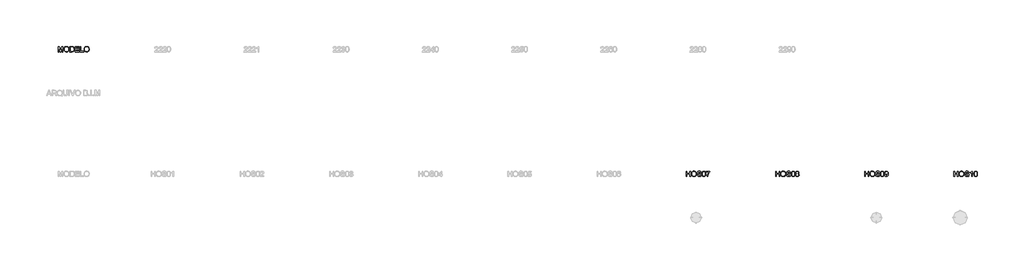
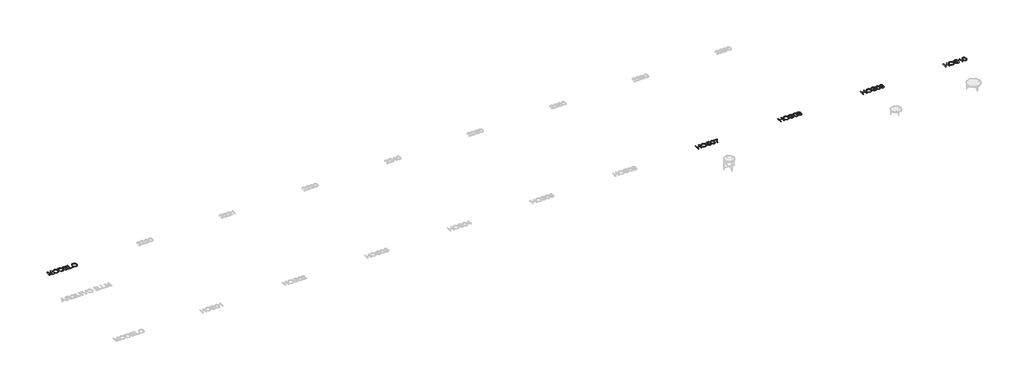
# One storey, part 3 of 6: 5 proxies.
"""IFC4 building model written with IfcOpenShell, lengths in millimetres."""

from ifc_helpers import new_model, si_unit, origin, origin_with_axes, place, context, project, spatial, polyline, outline, extrude, element, save

model = new_model("IFC4")

# Units and contexts
model_context = context("Model", 3, world=origin())
ifc_project = project(units=[si_unit("LENGTHUNIT", "METRE", prefix="MILLI")], contexts=[model_context])

# Site, building, storey
site = spatial("IfcSite", under=ifc_project)
building = spatial("IfcBuilding", under=site)
storey = spatial("IfcBuildingStorey", under=building, Name="Marelli - Linha HOSPITALITY - Planta Baixa", Elevation=0.0)

# Proxies
placement = place(None, origin())
element("IfcBuildingElementProxy", 1, Name="300mm Arial", ObjectType="300mm Arial", at=placement, inside=storey, context=model_context, shape_type="SweptSolid", body=[
    extrude(outline(polyline([(-9966.8769052, 2219.4336799), (-9966.8769052, 2520.8026104), (-9902.0560977, 2520.8026104), (-9840.3990753, 2308.3875464), (-9827.9646638, 2264.0209777), (-9814.5001828, 2312.0663663), (-9753.87323, 2520.8026104), (-9689.0524225, 2520.8026104), (-9689.0524225, 2219.4336799), (-9726.7235388, 2219.4336799), (-9726.7235388, 2483.1314941), (-9802.4336534, 2219.4336799), (-9853.4956743, 2219.4336799), (-9929.2057889, 2483.1314941), (-9929.2057889, 2219.4336799), (-9966.8769052, 2219.4336799)])), origin_with_axes(), (0.0, 0.0, 1.0), 10.0),
    extrude(outline(polyline([(-9637.2546375, 2366.1450196), (-9634.7438429, 2401.4938808), (-9627.2114591, 2432.786843), (-9614.657486, 2460.0239063), (-9597.0819237, 2483.2050705), (-9575.5378343, 2501.7141334), (-9551.0782802, 2514.9348926), (-9523.7032612, 2522.8673481), (-9493.4127774, 2525.5114999), (-9453.883857, 2520.545093), (-9418.4384268, 2505.6458722), (-9389.0078672, 2481.8623012), (-9367.5235587, 2450.2428437), (-9354.3901714, 2412.31421), (-9350.0123757, 2369.6031104), (-9354.6200977, 2326.3217936), (-9368.4432637, 2287.859731), (-9390.7185185, 2256.1850913), (-9420.682507, 2233.266043), (-9455.8244346, 2219.3601035), (-9493.6335066, 2214.7247904), (-9533.7694323, 2219.8475472), (-9569.4171976, 2235.2158175), (-9598.7741808, 2259.4408469), (-9620.0377602, 2291.1338808), (-9632.9504182, 2327.6001836), (-9637.2546375, 2366.1450196)]), holes=[polyline([(-9599.5835212, 2365.7771376), (-9597.7004253, 2340.8025487), (-9592.0511374, 2318.6330599), (-9582.6356576, 2299.2686714), (-9569.4539858, 2282.7093831), (-9553.4304257, 2269.4472372), (-9535.4892806, 2259.9742758), (-9515.6305507, 2254.290499), (-9493.8542358, 2252.3959067), (-9471.7054404, 2254.3088931), (-9451.6121857, 2260.0478522), (-9433.5744716, 2269.6127841), (-9417.5922982, 2283.0036887), (-9404.5071955, 2299.9124649), (-9395.1606936, 2320.0310115), (-9389.5527924, 2343.3593285), (-9387.683492, 2369.897416), (-9390.8840654, 2403.2459188), (-9400.4857854, 2432.0694731), (-9416.2403319, 2455.641512), (-9437.8993843, 2473.2354684), (-9464.0282031, 2484.1891548), (-9493.1920482, 2487.8403836), (-9514.2119057, 2486.0814478), (-9533.71425, 2480.8046405), (-9551.699081, 2472.0099615), (-9568.1663988, 2459.697411), (-9581.9113899, 2443.2737792), (-9591.7292406, 2422.1458563), (-9597.6199511, 2396.3136425), (-9599.5835212, 2365.7771376)])]), origin_with_axes(), (0.0, 0.0, 1.0), 10.0),
    extrude(outline(polyline([(-9298.2145908, 2219.4336799), (-9298.2145908, 2520.8026104), (-9194.2511389, 2520.8026104), (-9140.4667912, 2516.4616028), (-9116.444097, 2508.0922874), (-9096.173799, 2494.9037179), (-9075.333284, 2471.9478814), (-9060.4892455, 2443.4002386), (-9051.6048953, 2409.8126124), (-9048.6434453, 2371.7368259), (-9050.6484021, 2339.3908015), (-9056.6632727, 2310.9259321), (-9065.8235344, 2286.6917057), (-9077.2646645, 2267.0376101), (-9090.4348399, 2251.522187), (-9104.7822377, 2239.7039779), (-9121.254154, 2230.9391893), (-9140.797885, 2224.5840279), (-9189.2479438, 2219.4336799), (-9298.2145908, 2219.4336799)]), holes=[polyline([(-9260.5434745, 2257.1047962), (-9193.8832569, 2257.1047962), (-9166.3105014, 2258.4659596), (-9145.39641, 2262.5494498), (-9129.6142724, 2269.1161434), (-9117.4373783, 2277.9269172), (-9104.3499764, 2294.2332866), (-9094.51833, 2315.3405161), (-9088.3655037, 2341.3405761), (-9086.3145616, 2372.3254371), (-9090.3336724, 2413.3810678), (-9102.3910047, 2443.6945442), (-9120.2056904, 2464.5166651), (-9141.4968608, 2477.0982294), (-9163.1651103, 2481.6231779), (-9194.9133265, 2483.1314941), (-9260.5434745, 2483.1314941), (-9260.5434745, 2257.1047962)])]), origin_with_axes(), (0.0, 0.0, 1.0), 10.0),
    extrude(outline(polyline([(-8996.8456603, 2219.4336799), (-8996.8456603, 2520.8026104), (-8780.2367416, 2520.8026104), (-8780.2367416, 2483.1314941), (-8959.174544, 2483.1314941), (-8959.174544, 2393.6625928), (-8789.6545206, 2393.6625928), (-8789.6545206, 2355.9914765), (-8959.174544, 2355.9914765), (-8959.174544, 2257.1047962), (-8775.527852, 2257.1047962), (-8775.527852, 2219.4336799), (-8996.8456603, 2219.4336799)])), origin_with_axes(), (0.0, 0.0, 1.0), 10.0),
    extrude(outline(polyline([(-8719.0211776, 2219.4336799), (-8719.0211776, 2520.8026104), (-8681.3500613, 2520.8026104), (-8681.3500613, 2257.1047962), (-8530.665596, 2257.1047962), (-8530.665596, 2219.4336799), (-8719.0211776, 2219.4336799)])), origin_with_axes(), (0.0, 0.0, 1.0), 10.0),
    extrude(outline(polyline([(-8502.4122588, 2366.1450196), (-8499.9014642, 2401.4938808), (-8492.3690803, 2432.786843), (-8479.8151073, 2460.0239063), (-8462.2395449, 2483.2050705), (-8440.6954556, 2501.7141334), (-8416.2359014, 2514.9348926), (-8388.8608825, 2522.8673481), (-8358.5703987, 2525.5114999), (-8319.0414783, 2520.545093), (-8283.5960481, 2505.6458722), (-8254.1654885, 2481.8623012), (-8232.6811799, 2450.2428437), (-8219.5477927, 2412.31421), (-8215.169997, 2369.6031104), (-8219.777719, 2326.3217936), (-8233.6008849, 2287.859731), (-8255.8761397, 2256.1850913), (-8285.8401283, 2233.266043), (-8320.9820558, 2219.3601035), (-8358.7911279, 2214.7247904), (-8398.9270536, 2219.8475472), (-8434.5748189, 2235.2158175), (-8463.9318021, 2259.4408469), (-8485.1953814, 2291.1338808), (-8498.1080395, 2327.6001836), (-8502.4122588, 2366.1450196)]), holes=[polyline([(-8464.7411425, 2365.7771376), (-8462.8580465, 2340.8025487), (-8457.2087587, 2318.6330599), (-8447.7932788, 2299.2686714), (-8434.6116071, 2282.7093831), (-8418.5880469, 2269.4472372), (-8400.6469019, 2259.9742758), (-8380.7881719, 2254.290499), (-8359.0118571, 2252.3959067), (-8336.8630617, 2254.3088931), (-8316.769807, 2260.0478522), (-8298.7320929, 2269.6127841), (-8282.7499195, 2283.0036887), (-8269.6648168, 2299.9124649), (-8260.3183148, 2320.0310115), (-8254.7104137, 2343.3593285), (-8252.8411133, 2369.897416), (-8256.0416866, 2403.2459188), (-8265.6434067, 2432.0694731), (-8281.3979532, 2455.641512), (-8303.0570056, 2473.2354684), (-8329.1858243, 2484.1891548), (-8358.3496695, 2487.8403836), (-8379.369527, 2486.0814478), (-8398.8718713, 2480.8046405), (-8416.8567023, 2472.0099615), (-8433.3240201, 2459.697411), (-8447.0690112, 2443.2737792), (-8456.8868619, 2422.1458563), (-8462.7775724, 2396.3136425), (-8464.7411425, 2365.7771376)])]), origin_with_axes(), (0.0, 0.0, 1.0), 10.0),
])
element("IfcBuildingElementProxy", 2, Name="300mm Arial", ObjectType="300mm Arial", at=placement, inside=storey, context=model_context, shape_type="SweptSolid", body=[
    extrude(outline(polyline([(25252.0864583, -4780.5663201), (25252.0864583, -4479.1973896), (25289.7575746, -4479.1973896), (25289.7575746, -4601.6285176), (25449.8598189, -4601.6285176), (25449.8598189, -4479.1973896), (25487.5309352, -4479.1973896), (25487.5309352, -4780.5663201), (25449.8598189, -4780.5663201), (25449.8598189, -4639.2996339), (25289.7575746, -4639.2996339), (25289.7575746, -4780.5663201), (25252.0864583, -4780.5663201)])), origin_with_axes(), (0.0, 0.0, 1.0), 10.0),
    extrude(outline(polyline([(25539.3287202, -4633.8549804), (25541.8395148, -4598.5061192), (25549.3718986, -4567.213157), (25561.9258717, -4539.9760937), (25579.501434, -4516.7949295), (25601.0455234, -4498.2858666), (25625.5050775, -4485.0651074), (25652.8800965, -4477.1326519), (25683.1705803, -4474.4885001), (25722.6995006, -4479.454907), (25758.1449309, -4494.3541278), (25787.5754905, -4518.1376988), (25809.059799, -4549.7571563), (25822.1931862, -4587.68579), (25826.570982, -4630.3968896), (25821.96326, -4673.6782064), (25808.140094, -4712.140269), (25785.8648392, -4743.8149087), (25755.9008507, -4766.733957), (25720.7589231, -4780.6398965), (25682.9498511, -4785.2752096), (25642.8139254, -4780.1524528), (25607.1661601, -4764.7841825), (25577.8091768, -4740.5591531), (25556.5455975, -4708.8661192), (25543.6329395, -4672.3998164), (25539.3287202, -4633.8549804)]), holes=[polyline([(25576.9998365, -4634.2228624), (25578.8829324, -4659.1974513), (25584.5322203, -4681.3669401), (25593.9477001, -4700.7313286), (25607.1293719, -4717.2906169), (25623.152932, -4730.5527628), (25641.0940771, -4740.0257242), (25660.952807, -4745.709501), (25682.7291219, -4747.6040933), (25704.8779172, -4745.6911069), (25724.971172, -4739.9521478), (25743.008886, -4730.3872159), (25758.9910595, -4716.9963113), (25772.0761622, -4700.0875351), (25781.4226641, -4679.9689885), (25787.0305653, -4656.6406715), (25788.8998657, -4630.102584), (25785.6992923, -4596.7540812), (25776.0975722, -4567.9305269), (25760.3430258, -4544.358488), (25738.6839733, -4526.7645316), (25712.5551546, -4515.8108452), (25683.3913095, -4512.1596164), (25662.371452, -4513.9185522), (25642.8691077, -4519.1953595), (25624.8842767, -4527.9900385), (25608.4169588, -4540.302589), (25594.6719678, -4556.7262208), (25584.8541171, -4577.8541437), (25578.9634066, -4603.6863575), (25576.9998365, -4634.2228624)])]), origin_with_axes(), (0.0, 0.0, 1.0), 10.0),
    extrude(outline(polyline([(25864.2420983, -4676.9707502), (25901.9132146, -4676.9707502), (25906.235828, -4697.8756446), (25914.0533204, -4714.6786547), (25926.2486086, -4728.0143771), (25943.7046092, -4738.517408), (25965.041765, -4745.332422), (25988.8805183, -4747.6040933), (26009.8681861, -4745.884245), (26028.2438917, -4740.7247), (26043.1339155, -4732.5577197), (26053.6645376, -4721.8155654), (26059.9277286, -4709.4823216), (26062.0154589, -4696.5420724), (26060.4519604, -4683.932917), (26055.761465, -4673.0344129), (26046.2333213, -4663.7361954), (26030.1568781, -4655.9279001), (25975.3056726, -4641.5437141), (25939.2992224, -4632.0247675), (25916.2606124, -4622.9656733), (25897.5078277, -4610.2921386), (25884.2180906, -4594.9330653), (25876.2994307, -4577.2195472), (25873.6598774, -4557.4826782), (25876.9248301, -4535.4189555), (25886.7196882, -4514.845155), (25902.7869343, -4497.4075484), (25924.8690511, -4484.7524077), (25951.3749488, -4477.054477), (25980.713538, -4474.4885001), (26012.4985423, -4477.1740386), (26040.3104212, -4485.2306543), (26063.1558931, -4498.4928003), (26080.0416767, -4516.7949295), (26090.7286486, -4538.9966079), (26094.9776857, -4563.9574013), (26057.3065694, -4563.9574013), (26050.3903879, -4541.4798114), (26035.9694136, -4525.2562154), (26013.4366414, -4515.4337661), (25982.1850659, -4512.1596164), (25950.1977265, -4515.3969779), (25928.2535655, -4525.1090626), (25915.5616366, -4539.4012781), (25911.3309937, -4556.3790322), (25914.3292319, -4570.8551887), (25923.3239467, -4582.4986539), (25944.587526, -4592.9097143), (25984.8338163, -4603.541504), (26026.3676936, -4613.6398648), (26051.4940338, -4622.4506385), (26072.9691453, -4636.1174547), (26087.9511396, -4652.9848441), (26096.7527163, -4672.868866), (26099.6865752, -4695.5855792), (26096.3112579, -4718.8081301), (26086.185306, -4740.6511236), (26069.7225867, -4759.4498935), (26047.3369673, -4773.539774), (26020.4172023, -4782.3413507), (25990.3520462, -4785.2752096), (25953.4442851, -4782.1114244), (25923.0664293, -4772.620069), (25898.8689911, -4756.764355), (25880.5024825, -4734.5074943), (25868.7118645, -4707.3945912), (25864.2420983, -4676.9707502)])), origin_with_axes(), (0.0, 0.0, 1.0), 10.0),
    extrude(outline(polyline([(26142.066581, -4632.309876), (26144.8348931, -4584.0713494), (26153.1398291, -4545.6000897), (26166.8986157, -4516.3074859), (26186.0284795, -4495.6049266), (26210.6673761, -4483.2992739), (26240.9532614, -4479.1973896), (26264.1666152, -4481.6254108), (26284.951948, -4488.9094743), (26302.3343722, -4500.7644716), (26315.3390008, -4516.9052941), (26325.16145, -4537.1939862), (26332.9973365, -4561.4925919), (26338.1292904, -4592.3486943), (26339.8399417, -4632.309876), (26337.0992208, -4680.2724911), (26328.8770582, -4718.6517803), (26315.201045, -4747.9719753), (26296.0987724, -4768.757308), (26271.4046935, -4781.1457342), (26240.9532614, -4785.2752096), (26220.2047168, -4783.4817849), (26201.8106171, -4778.1015107), (26185.7709621, -4769.1343871), (26172.0857519, -4756.580414), (26158.9523646, -4733.8866934), (26149.5713738, -4705.6103636), (26143.9427792, -4671.7514244), (26142.066581, -4632.309876)]), holes=[polyline([(26179.7376974, -4632.2362996), (26184.1522813, -4691.492892), (26189.6705112, -4711.7608907), (26197.3960331, -4725.788691), (26217.1145081, -4742.1502427), (26240.9532614, -4747.6040933), (26264.7920146, -4742.1318486), (26284.5104896, -4725.7151146), (26292.2360115, -4711.6643216), (26297.7542414, -4691.4009215), (26302.1688253, -4632.2362996), (26297.9013942, -4574.3132795), (26292.5671053, -4554.1119594), (26285.0991008, -4539.750766), (26265.417414, -4522.589071), (26240.511803, -4516.8685059), (26216.9305671, -4521.9084893), (26197.9846443, -4537.0284393), (26190.001605, -4552.6634241), (26184.2994341, -4573.7430624), (26179.7376974, -4632.2362996)])]), origin_with_axes(), (0.0, 0.0, 1.0), 10.0),
    extrude(outline(polyline([(26372.8021684, -4521.5773955), (26372.8021684, -4483.9062792), (26570.575529, -4483.9062792), (26570.575529, -4514.3669084), (26542.3865712, -4550.0422648), (26514.4735248, -4595.4113119), (26489.8530222, -4646.3353771), (26471.5416959, -4698.6757879), (26462.5653752, -4737.8368263), (26457.5621801, -4780.5663201), (26419.8910638, -4780.5663201), (26423.9653569, -4741.7363755), (26434.863861, -4695.5855792), (26452.2922705, -4646.6664709), (26475.9562799, -4599.5315902), (26503.5842177, -4556.9216582), (26532.9044127, -4521.5773955), (26372.8021684, -4521.5773955)])), origin_with_axes(), (0.0, 0.0, 1.0), 10.0),
])
element("IfcBuildingElementProxy", 3, Name="300mm Arial", ObjectType="300mm Arial", at=placement, inside=storey, context=model_context, shape_type="SweptSolid", body=[
    extrude(outline(polyline([(30252.0864583, -4780.5663201), (30252.0864583, -4479.1973896), (30289.7575746, -4479.1973896), (30289.7575746, -4601.6285176), (30449.8598189, -4601.6285176), (30449.8598189, -4479.1973896), (30487.5309352, -4479.1973896), (30487.5309352, -4780.5663201), (30449.8598189, -4780.5663201), (30449.8598189, -4639.2996339), (30289.7575746, -4639.2996339), (30289.7575746, -4780.5663201), (30252.0864583, -4780.5663201)])), origin_with_axes(), (0.0, 0.0, 1.0), 10.0),
    extrude(outline(polyline([(30539.3287202, -4633.8549804), (30541.8395148, -4598.5061192), (30549.3718986, -4567.213157), (30561.9258717, -4539.9760937), (30579.501434, -4516.7949295), (30601.0455234, -4498.2858666), (30625.5050775, -4485.0651074), (30652.8800965, -4477.1326519), (30683.1705803, -4474.4885001), (30722.6995006, -4479.454907), (30758.1449309, -4494.3541278), (30787.5754905, -4518.1376988), (30809.059799, -4549.7571563), (30822.1931862, -4587.68579), (30826.570982, -4630.3968896), (30821.96326, -4673.6782064), (30808.140094, -4712.140269), (30785.8648392, -4743.8149087), (30755.9008507, -4766.733957), (30720.7589231, -4780.6398965), (30682.9498511, -4785.2752096), (30642.8139254, -4780.1524528), (30607.1661601, -4764.7841825), (30577.8091768, -4740.5591531), (30556.5455975, -4708.8661192), (30543.6329395, -4672.3998164), (30539.3287202, -4633.8549804)]), holes=[polyline([(30576.9998365, -4634.2228624), (30578.8829324, -4659.1974513), (30584.5322203, -4681.3669401), (30593.9477001, -4700.7313286), (30607.1293719, -4717.2906169), (30623.152932, -4730.5527628), (30641.0940771, -4740.0257242), (30660.952807, -4745.709501), (30682.7291219, -4747.6040933), (30704.8779172, -4745.6911069), (30724.971172, -4739.9521478), (30743.008886, -4730.3872159), (30758.9910595, -4716.9963113), (30772.0761622, -4700.0875351), (30781.4226641, -4679.9689885), (30787.0305653, -4656.6406715), (30788.8998657, -4630.102584), (30785.6992923, -4596.7540812), (30776.0975722, -4567.9305269), (30760.3430258, -4544.358488), (30738.6839733, -4526.7645316), (30712.5551546, -4515.8108452), (30683.3913095, -4512.1596164), (30662.371452, -4513.9185522), (30642.8691077, -4519.1953595), (30624.8842767, -4527.9900385), (30608.4169588, -4540.302589), (30594.6719678, -4556.7262208), (30584.8541171, -4577.8541437), (30578.9634066, -4603.6863575), (30576.9998365, -4634.2228624)])]), origin_with_axes(), (0.0, 0.0, 1.0), 10.0),
    extrude(outline(polyline([(30864.2420983, -4676.9707502), (30901.9132146, -4676.9707502), (30906.235828, -4697.8756446), (30914.0533204, -4714.6786547), (30926.2486086, -4728.0143771), (30943.7046092, -4738.517408), (30965.041765, -4745.332422), (30988.8805183, -4747.6040933), (31009.8681861, -4745.884245), (31028.2438917, -4740.7247), (31043.1339155, -4732.5577197), (31053.6645376, -4721.8155654), (31059.9277286, -4709.4823216), (31062.0154589, -4696.5420724), (31060.4519604, -4683.932917), (31055.761465, -4673.0344129), (31046.2333213, -4663.7361954), (31030.1568781, -4655.9279001), (30975.3056726, -4641.5437141), (30939.2992224, -4632.0247675), (30916.2606124, -4622.9656733), (30897.5078277, -4610.2921386), (30884.2180906, -4594.9330653), (30876.2994307, -4577.2195472), (30873.6598774, -4557.4826782), (30876.9248301, -4535.4189555), (30886.7196882, -4514.845155), (30902.7869343, -4497.4075484), (30924.8690511, -4484.7524077), (30951.3749488, -4477.054477), (30980.713538, -4474.4885001), (31012.4985423, -4477.1740386), (31040.3104212, -4485.2306543), (31063.1558931, -4498.4928003), (31080.0416767, -4516.7949295), (31090.7286486, -4538.9966079), (31094.9776857, -4563.9574013), (31057.3065694, -4563.9574013), (31050.3903879, -4541.4798114), (31035.9694136, -4525.2562154), (31013.4366414, -4515.4337661), (30982.1850659, -4512.1596164), (30950.1977265, -4515.3969779), (30928.2535655, -4525.1090626), (30915.5616366, -4539.4012781), (30911.3309937, -4556.3790322), (30914.3292319, -4570.8551887), (30923.3239467, -4582.4986539), (30944.587526, -4592.9097143), (30984.8338163, -4603.541504), (31026.3676936, -4613.6398648), (31051.4940338, -4622.4506385), (31072.9691453, -4636.1174547), (31087.9511396, -4652.9848441), (31096.7527163, -4672.868866), (31099.6865752, -4695.5855792), (31096.3112579, -4718.8081301), (31086.185306, -4740.6511236), (31069.7225867, -4759.4498935), (31047.3369673, -4773.539774), (31020.4172023, -4782.3413507), (30990.3520462, -4785.2752096), (30953.4442851, -4782.1114244), (30923.0664293, -4772.620069), (30898.8689911, -4756.764355), (30880.5024825, -4734.5074943), (30868.7118645, -4707.3945912), (30864.2420983, -4676.9707502)])), origin_with_axes(), (0.0, 0.0, 1.0), 10.0),
    extrude(outline(polyline([(31142.066581, -4632.309876), (31144.8348931, -4584.0713494), (31153.1398291, -4545.6000897), (31166.8986157, -4516.3074859), (31186.0284795, -4495.6049266), (31210.6673761, -4483.2992739), (31240.9532614, -4479.1973896), (31264.1666152, -4481.6254108), (31284.951948, -4488.9094743), (31302.3343722, -4500.7644716), (31315.3390008, -4516.9052941), (31325.16145, -4537.1939862), (31332.9973365, -4561.4925919), (31338.1292904, -4592.3486943), (31339.8399417, -4632.309876), (31337.0992208, -4680.2724911), (31328.8770582, -4718.6517803), (31315.201045, -4747.9719753), (31296.0987724, -4768.757308), (31271.4046935, -4781.1457342), (31240.9532614, -4785.2752096), (31220.2047168, -4783.4817849), (31201.8106171, -4778.1015107), (31185.7709621, -4769.1343871), (31172.0857519, -4756.580414), (31158.9523646, -4733.8866934), (31149.5713738, -4705.6103636), (31143.9427792, -4671.7514244), (31142.066581, -4632.309876)]), holes=[polyline([(31179.7376974, -4632.2362996), (31184.1522813, -4691.492892), (31189.6705112, -4711.7608907), (31197.3960331, -4725.788691), (31217.1145081, -4742.1502427), (31240.9532614, -4747.6040933), (31264.7920146, -4742.1318486), (31284.5104896, -4725.7151146), (31292.2360115, -4711.6643216), (31297.7542414, -4691.4009215), (31302.1688253, -4632.2362996), (31297.9013942, -4574.3132795), (31292.5671053, -4554.1119594), (31285.0991008, -4539.750766), (31265.417414, -4522.589071), (31240.511803, -4516.8685059), (31216.9305671, -4521.9084893), (31197.9846443, -4537.0284393), (31190.001605, -4552.6634241), (31184.2994341, -4573.7430624), (31179.7376974, -4632.2362996)])]), origin_with_axes(), (0.0, 0.0, 1.0), 10.0),
    extrude(outline(polyline([(31427.6901621, -4614.5779638), (31407.5210317, -4604.64515), (31393.366772, -4591.180669), (31385.0066536, -4574.4604323), (31382.2199475, -4554.7603514), (31383.7374607, -4539.3966796), (31388.2900004, -4525.3113977), (31395.8775666, -4512.5045058), (31406.5001592, -4500.9760037), (31419.647342, -4491.4478601), (31434.8086787, -4484.6420431), (31471.1738139, -4479.1973896), (31507.7596784, -4484.7708018), (31523.086562, -4491.7375671), (31536.4360799, -4501.4910385), (31547.2518105, -4513.2448683), (31554.9773324, -4526.2127086), (31559.6126456, -4540.3945595), (31561.15775, -4555.790421), (31558.407832, -4574.8559054), (31550.1580783, -4591.2910335), (31536.3165182, -4604.6727411), (31516.7911813, -4614.5779638), (31539.9769441, -4626.5249316), (31556.8535306, -4644.1188881), (31567.1450294, -4666.5137045), (31570.575529, -4692.8632524), (31568.8740748, -4711.6528253), (31563.7697121, -4728.8788997), (31555.262441, -4744.5414757), (31543.3522614, -4758.6405532), (31528.6645727, -4770.2932154), (31511.8247744, -4778.6165455), (31492.8328664, -4783.6105436), (31471.6888487, -4785.2752096), (31450.5448311, -4783.6036458), (31431.5529231, -4778.5889543), (31414.7131247, -4770.2311353), (31400.0254361, -4758.5301886), (31388.1152565, -4744.3322428), (31379.6079853, -4728.4834266), (31374.5036227, -4710.9837399), (31372.8021684, -4691.8331828), (31376.3706238, -4664.4627624), (31387.0759898, -4641.9483843), (31404.3664436, -4625.0626007), (31427.6901621, -4614.5779638)]), holes=[polyline([(31419.8910638, -4555.8639974), (31423.2295929, -4572.3083226), (31433.2451802, -4585.4417098), (31449.6435202, -4594.0501485), (31472.1303071, -4596.9196281), (31494.0928622, -4594.0685426), (31510.2428818, -4585.5152862), (31520.1756957, -4572.8233574), (31523.4866336, -4557.5562546), (31520.0653311, -4541.7097376), (31509.8014234, -4528.6039416), (31493.4306746, -4519.8023648), (31471.6888487, -4516.8685059), (31449.8090671, -4519.7379855), (31433.4659094, -4528.3464242), (31423.2847752, -4540.9647766), (31419.8910638, -4555.8639974)]), polyline([(31410.4732847, -4690.5088076), (31416.7640668, -4718.8725095), (31425.4736731, -4731.0402065), (31439.0209276, -4740.0993006), (31455.2445235, -4745.7278951), (31471.9831543, -4747.6040933), (31497.6245294, -4743.6585589), (31516.8647577, -4731.8219557), (31528.894499, -4713.8969055), (31532.9044127, -4691.68603), (31528.7657403, -4669.0980755), (31516.3497229, -4650.7775522), (31496.6680362, -4638.6374463), (31470.7323555, -4634.5907444), (31445.4496654, -4638.582264), (31426.4025751, -4650.556823), (31414.4556073, -4668.5278584), (31410.4732847, -4690.5088076)])]), origin_with_axes(), (0.0, 0.0, 1.0), 10.0),
])
element("IfcBuildingElementProxy", 4, Name="300mm Arial", ObjectType="300mm Arial", at=placement, inside=storey, context=model_context, shape_type="SweptSolid", body=[
    extrude(outline(polyline([(35252.0864583, -4780.5663201), (35252.0864583, -4479.1973896), (35289.7575746, -4479.1973896), (35289.7575746, -4601.6285176), (35449.8598189, -4601.6285176), (35449.8598189, -4479.1973896), (35487.5309352, -4479.1973896), (35487.5309352, -4780.5663201), (35449.8598189, -4780.5663201), (35449.8598189, -4639.2996339), (35289.7575746, -4639.2996339), (35289.7575746, -4780.5663201), (35252.0864583, -4780.5663201)])), origin_with_axes(), (0.0, 0.0, 1.0), 10.0),
    extrude(outline(polyline([(35539.3287202, -4633.8549804), (35541.8395148, -4598.5061192), (35549.3718986, -4567.213157), (35561.9258717, -4539.9760937), (35579.501434, -4516.7949295), (35601.0455234, -4498.2858666), (35625.5050775, -4485.0651074), (35652.8800965, -4477.1326519), (35683.1705803, -4474.4885001), (35722.6995006, -4479.454907), (35758.1449309, -4494.3541278), (35787.5754905, -4518.1376988), (35809.059799, -4549.7571563), (35822.1931862, -4587.68579), (35826.570982, -4630.3968896), (35821.96326, -4673.6782064), (35808.140094, -4712.140269), (35785.8648392, -4743.8149087), (35755.9008507, -4766.733957), (35720.7589231, -4780.6398965), (35682.9498511, -4785.2752096), (35642.8139254, -4780.1524528), (35607.1661601, -4764.7841825), (35577.8091768, -4740.5591531), (35556.5455975, -4708.8661192), (35543.6329395, -4672.3998164), (35539.3287202, -4633.8549804)]), holes=[polyline([(35576.9998365, -4634.2228624), (35578.8829324, -4659.1974513), (35584.5322203, -4681.3669401), (35593.9477001, -4700.7313286), (35607.1293719, -4717.2906169), (35623.152932, -4730.5527628), (35641.0940771, -4740.0257242), (35660.952807, -4745.709501), (35682.7291219, -4747.6040933), (35704.8779172, -4745.6911069), (35724.971172, -4739.9521478), (35743.008886, -4730.3872159), (35758.9910595, -4716.9963113), (35772.0761622, -4700.0875351), (35781.4226641, -4679.9689885), (35787.0305653, -4656.6406715), (35788.8998657, -4630.102584), (35785.6992923, -4596.7540812), (35776.0975722, -4567.9305269), (35760.3430258, -4544.358488), (35738.6839733, -4526.7645316), (35712.5551546, -4515.8108452), (35683.3913095, -4512.1596164), (35662.371452, -4513.9185522), (35642.8691077, -4519.1953595), (35624.8842767, -4527.9900385), (35608.4169588, -4540.302589), (35594.6719678, -4556.7262208), (35584.8541171, -4577.8541437), (35578.9634066, -4603.6863575), (35576.9998365, -4634.2228624)])]), origin_with_axes(), (0.0, 0.0, 1.0), 10.0),
    extrude(outline(polyline([(35864.2420983, -4676.9707502), (35901.9132146, -4676.9707502), (35906.235828, -4697.8756446), (35914.0533204, -4714.6786547), (35926.2486086, -4728.0143771), (35943.7046092, -4738.517408), (35965.041765, -4745.332422), (35988.8805183, -4747.6040933), (36009.8681861, -4745.884245), (36028.2438917, -4740.7247), (36043.1339155, -4732.5577197), (36053.6645376, -4721.8155654), (36059.9277286, -4709.4823216), (36062.0154589, -4696.5420724), (36060.4519604, -4683.932917), (36055.761465, -4673.0344129), (36046.2333213, -4663.7361954), (36030.1568781, -4655.9279001), (35975.3056726, -4641.5437141), (35939.2992224, -4632.0247675), (35916.2606124, -4622.9656733), (35897.5078277, -4610.2921386), (35884.2180906, -4594.9330653), (35876.2994307, -4577.2195472), (35873.6598774, -4557.4826782), (35876.9248301, -4535.4189555), (35886.7196882, -4514.845155), (35902.7869343, -4497.4075484), (35924.8690511, -4484.7524077), (35951.3749488, -4477.054477), (35980.713538, -4474.4885001), (36012.4985423, -4477.1740386), (36040.3104212, -4485.2306543), (36063.1558931, -4498.4928003), (36080.0416767, -4516.7949295), (36090.7286486, -4538.9966079), (36094.9776857, -4563.9574013), (36057.3065694, -4563.9574013), (36050.3903879, -4541.4798114), (36035.9694136, -4525.2562154), (36013.4366414, -4515.4337661), (35982.1850659, -4512.1596164), (35950.1977265, -4515.3969779), (35928.2535655, -4525.1090626), (35915.5616366, -4539.4012781), (35911.3309937, -4556.3790322), (35914.3292319, -4570.8551887), (35923.3239467, -4582.4986539), (35944.587526, -4592.9097143), (35984.8338163, -4603.541504), (36026.3676936, -4613.6398648), (36051.4940338, -4622.4506385), (36072.9691453, -4636.1174547), (36087.9511396, -4652.9848441), (36096.7527163, -4672.868866), (36099.6865752, -4695.5855792), (36096.3112579, -4718.8081301), (36086.185306, -4740.6511236), (36069.7225867, -4759.4498935), (36047.3369673, -4773.539774), (36020.4172023, -4782.3413507), (35990.3520462, -4785.2752096), (35953.4442851, -4782.1114244), (35923.0664293, -4772.620069), (35898.8689911, -4756.764355), (35880.5024825, -4734.5074943), (35868.7118645, -4707.3945912), (35864.2420983, -4676.9707502)])), origin_with_axes(), (0.0, 0.0, 1.0), 10.0),
    extrude(outline(polyline([(36142.066581, -4632.309876), (36144.8348931, -4584.0713494), (36153.1398291, -4545.6000897), (36166.8986157, -4516.3074859), (36186.0284795, -4495.6049266), (36210.6673761, -4483.2992739), (36240.9532614, -4479.1973896), (36264.1666152, -4481.6254108), (36284.951948, -4488.9094743), (36302.3343722, -4500.7644716), (36315.3390008, -4516.9052941), (36325.16145, -4537.1939862), (36332.9973365, -4561.4925919), (36338.1292904, -4592.3486943), (36339.8399417, -4632.309876), (36337.0992208, -4680.2724911), (36328.8770582, -4718.6517803), (36315.201045, -4747.9719753), (36296.0987724, -4768.757308), (36271.4046935, -4781.1457342), (36240.9532614, -4785.2752096), (36220.2047168, -4783.4817849), (36201.8106171, -4778.1015107), (36185.7709621, -4769.1343871), (36172.0857519, -4756.580414), (36158.9523646, -4733.8866934), (36149.5713738, -4705.6103636), (36143.9427792, -4671.7514244), (36142.066581, -4632.309876)]), holes=[polyline([(36179.7376974, -4632.2362996), (36184.1522813, -4691.492892), (36189.6705112, -4711.7608907), (36197.3960331, -4725.788691), (36217.1145081, -4742.1502427), (36240.9532614, -4747.6040933), (36264.7920146, -4742.1318486), (36284.5104896, -4725.7151146), (36292.2360115, -4711.6643216), (36297.7542414, -4691.4009215), (36302.1688253, -4632.2362996), (36297.9013942, -4574.3132795), (36292.5671053, -4554.1119594), (36285.0991008, -4539.750766), (36265.417414, -4522.589071), (36240.511803, -4516.8685059), (36216.9305671, -4521.9084893), (36197.9846443, -4537.0284393), (36190.001605, -4552.6634241), (36184.2994341, -4573.7430624), (36179.7376974, -4632.2362996)])]), origin_with_axes(), (0.0, 0.0, 1.0), 10.0),
    extrude(outline(polyline([(36377.511058, -4705.2240875), (36415.1821743, -4700.5151979), (36421.6201092, -4721.8983389), (36432.104746, -4736.4572688), (36446.3785675, -4744.8173872), (36464.184056, -4747.6040933), (36480.1593317, -4745.8106686), (36494.6814734, -4740.4303944), (36506.7480029, -4732.051882), (36515.3564416, -4721.2637424), (36527.6804884, -4688.5222449), (36533.1251419, -4644.8178638), (36532.9044127, -4637.4602239), (36519.8537989, -4653.3895143), (36502.7748773, -4666.0078668), (36482.9000525, -4674.2300294), (36461.4617293, -4676.9707502), (36443.5665695, -4675.2968871), (36427.110748, -4670.2752979), (36412.0942648, -4661.9059825), (36398.5171199, -4650.188941), (36387.2668286, -4635.7357771), (36379.2309063, -4619.1580947), (36374.4093529, -4600.4558938), (36372.8021684, -4579.6291743), (36374.4875278, -4558.1080776), (36379.543606, -4538.7942728), (36387.9704029, -4521.6877601), (36399.7679187, -4506.7885393), (36414.1038202, -4494.7174113), (36430.1457744, -4486.095177), (36447.8937814, -4480.9218365), (36467.3478412, -4479.1973896), (36495.4448286, -4483.133727), (36521.0218243, -4494.942739), (36542.4141623, -4514.0358146), (36557.9571766, -4539.8243424), (36567.4209409, -4575.4721078), (36570.575529, -4624.1428957), (36567.430138, -4675.7475426), (36557.9939648, -4715.6351479), (36542.349783, -4745.6083335), (36520.5803659, -4767.469721), (36493.6238127, -4780.8238375), (36462.4182224, -4785.2752096), (36430.2101538, -4780.0236941), (36404.5135964, -4764.2691477), (36386.5425609, -4739.0048517), (36377.511058, -4705.2240875)]), holes=[polyline([(36532.9044127, -4578.7462575), (36528.8393167, -4553.215247), (36516.6440285, -4533.5703485), (36497.7164999, -4521.0439666), (36473.4546823, -4516.8685059), (36448.2915538, -4521.3658633), (36428.1316205, -4534.8579355), (36414.8878687, -4555.5053125), (36410.4732847, -4581.4685843), (36414.6487454, -4604.7463175), (36427.1751273, -4623.2231907), (36446.83842, -4635.2805231), (36472.4246127, -4639.2996339), (36496.4932923, -4635.2805231), (36515.8714763, -4623.2231907), (36528.6461786, -4604.0657358), (36532.9044127, -4578.7462575)])]), origin_with_axes(), (0.0, 0.0, 1.0), 10.0),
])
element("IfcBuildingElementProxy", 5, Name="300mm Arial", ObjectType="300mm Arial", at=placement, inside=storey, context=model_context, shape_type="SweptSolid", body=[
    extrude(outline(polyline([(40252.0864583, -4780.5663201), (40252.0864583, -4479.1973896), (40289.7575746, -4479.1973896), (40289.7575746, -4601.6285176), (40449.8598189, -4601.6285176), (40449.8598189, -4479.1973896), (40487.5309352, -4479.1973896), (40487.5309352, -4780.5663201), (40449.8598189, -4780.5663201), (40449.8598189, -4639.2996339), (40289.7575746, -4639.2996339), (40289.7575746, -4780.5663201), (40252.0864583, -4780.5663201)])), origin_with_axes(), (0.0, 0.0, 1.0), 10.0),
    extrude(outline(polyline([(40539.3287202, -4633.8549804), (40541.8395148, -4598.5061192), (40549.3718986, -4567.213157), (40561.9258717, -4539.9760937), (40579.501434, -4516.7949295), (40601.0455234, -4498.2858666), (40625.5050775, -4485.0651074), (40652.8800965, -4477.1326519), (40683.1705803, -4474.4885001), (40722.6995006, -4479.454907), (40758.1449309, -4494.3541278), (40787.5754905, -4518.1376988), (40809.059799, -4549.7571563), (40822.1931862, -4587.68579), (40826.570982, -4630.3968896), (40821.96326, -4673.6782064), (40808.140094, -4712.140269), (40785.8648392, -4743.8149088), (40755.9008507, -4766.733957), (40720.7589231, -4780.6398965), (40682.9498511, -4785.2752096), (40642.8139254, -4780.1524528), (40607.1661601, -4764.7841825), (40577.8091768, -4740.5591531), (40556.5455975, -4708.8661192), (40543.6329395, -4672.3998164), (40539.3287202, -4633.8549804)]), holes=[polyline([(40576.9998365, -4634.2228624), (40578.8829324, -4659.1974513), (40584.5322203, -4681.3669401), (40593.9477001, -4700.7313286), (40607.1293719, -4717.2906169), (40623.152932, -4730.5527628), (40641.0940771, -4740.0257242), (40660.952807, -4745.709501), (40682.7291219, -4747.6040933), (40704.8779172, -4745.6911069), (40724.971172, -4739.9521478), (40743.008886, -4730.3872159), (40758.9910595, -4716.9963113), (40772.0761622, -4700.0875351), (40781.4226641, -4679.9689885), (40787.0305653, -4656.6406715), (40788.8998657, -4630.102584), (40785.6992923, -4596.7540812), (40776.0975722, -4567.9305269), (40760.3430258, -4544.358488), (40738.6839733, -4526.7645316), (40712.5551546, -4515.8108452), (40683.3913095, -4512.1596164), (40662.371452, -4513.9185522), (40642.8691077, -4519.1953595), (40624.8842767, -4527.9900385), (40608.4169588, -4540.302589), (40594.6719678, -4556.7262208), (40584.8541171, -4577.8541437), (40578.9634066, -4603.6863575), (40576.9998365, -4634.2228624)])]), origin_with_axes(), (0.0, 0.0, 1.0), 10.0),
    extrude(outline(polyline([(40864.2420983, -4676.9707502), (40901.9132146, -4676.9707502), (40906.235828, -4697.8756446), (40914.0533204, -4714.6786547), (40926.2486086, -4728.0143771), (40943.7046092, -4738.517408), (40965.041765, -4745.332422), (40988.8805183, -4747.6040933), (41009.8681861, -4745.884245), (41028.2438917, -4740.7247), (41043.1339155, -4732.5577197), (41053.6645376, -4721.8155654), (41059.9277286, -4709.4823216), (41062.0154589, -4696.5420724), (41060.4519604, -4683.932917), (41055.761465, -4673.0344129), (41046.2333213, -4663.7361954), (41030.1568781, -4655.9279001), (40975.3056726, -4641.5437141), (40939.2992224, -4632.0247675), (40916.2606124, -4622.9656733), (40897.5078277, -4610.2921386), (40884.2180906, -4594.9330653), (40876.2994307, -4577.2195472), (40873.6598774, -4557.4826782), (40876.9248301, -4535.4189555), (40886.7196882, -4514.845155), (40902.7869343, -4497.4075484), (40924.8690511, -4484.7524077), (40951.3749488, -4477.054477), (40980.713538, -4474.4885001), (41012.4985423, -4477.1740386), (41040.3104212, -4485.2306543), (41063.1558931, -4498.4928003), (41080.0416767, -4516.7949295), (41090.7286486, -4538.9966079), (41094.9776857, -4563.9574013), (41057.3065694, -4563.9574013), (41050.3903879, -4541.4798114), (41035.9694136, -4525.2562154), (41013.4366414, -4515.4337661), (40982.1850659, -4512.1596164), (40950.1977265, -4515.3969779), (40928.2535655, -4525.1090626), (40915.5616366, -4539.4012781), (40911.3309937, -4556.3790322), (40914.3292319, -4570.8551887), (40923.3239467, -4582.4986539), (40944.587526, -4592.9097143), (40984.8338163, -4603.541504), (41026.3676936, -4613.6398648), (41051.4940338, -4622.4506385), (41072.9691453, -4636.1174547), (41087.9511396, -4652.9848441), (41096.7527163, -4672.868866), (41099.6865752, -4695.5855792), (41096.3112579, -4718.8081301), (41086.185306, -4740.6511236), (41069.7225867, -4759.4498935), (41047.3369673, -4773.539774), (41020.4172023, -4782.3413507), (40990.3520462, -4785.2752096), (40953.4442851, -4782.1114244), (40923.0664293, -4772.620069), (40898.8689911, -4756.764355), (40880.5024825, -4734.5074943), (40868.7118645, -4707.3945912), (40864.2420983, -4676.9707502)])), origin_with_axes(), (0.0, 0.0, 1.0), 10.0),
    extrude(outline(polyline([(41283.3332672, -4780.5663201), (41245.6621509, -4780.5663201), (41245.6621509, -4545.7104543), (41209.9775974, -4571.1311002), (41170.3199183, -4590.1505994), (41170.3199183, -4554.5396222), (41199.9068277, -4538.4447849), (41225.5390058, -4519.2965271), (41245.7449243, -4498.9342587), (41259.0530555, -4479.1973896), (41283.3332672, -4479.1973896), (41283.3332672, -4780.5663201)])), origin_with_axes(), (0.0, 0.0, 1.0), 10.0),
    extrude(outline(polyline([(41372.8021684, -4632.309876), (41375.5704804, -4584.0713494), (41383.8754165, -4545.6000897), (41397.6342031, -4516.3074859), (41416.7640668, -4495.6049266), (41441.4029635, -4483.2992739), (41471.6888487, -4479.1973896), (41494.9022026, -4481.6254108), (41515.6875354, -4488.9094743), (41533.0699596, -4500.7644716), (41546.0745882, -4516.9052941), (41555.8970374, -4537.1939862), (41563.7329239, -4561.4925919), (41568.8648778, -4592.3486943), (41570.575529, -4632.309876), (41567.8348082, -4680.2724911), (41559.6126456, -4718.6517803), (41545.9366324, -4747.9719753), (41526.8343598, -4768.757308), (41502.1402809, -4781.1457342), (41471.6888487, -4785.2752096), (41450.9403042, -4783.4817849), (41432.5462044, -4778.1015107), (41416.5065495, -4769.1343871), (41402.8213392, -4756.580414), (41389.687952, -4733.8866934), (41380.3069611, -4705.6103636), (41374.6783666, -4671.7514244), (41372.8021684, -4632.309876)]), holes=[polyline([(41410.4732847, -4632.2362996), (41414.8878687, -4691.492892), (41420.4060986, -4711.7608907), (41428.1316205, -4725.788691), (41447.8500954, -4742.1502427), (41471.6888487, -4747.6040933), (41495.527602, -4742.1318486), (41515.246077, -4725.7151146), (41522.9715989, -4711.6643216), (41528.4898288, -4691.4009215), (41532.9044127, -4632.2362996), (41528.6369816, -4574.3132795), (41523.3026927, -4554.1119594), (41515.8346881, -4539.750766), (41496.1530014, -4522.589071), (41471.2473903, -4516.8685059), (41447.6661544, -4521.9084893), (41428.7202317, -4537.0284393), (41420.7371924, -4552.6634241), (41415.0350215, -4573.7430624), (41410.4732847, -4632.2362996)])]), origin_with_axes(), (0.0, 0.0, 1.0), 10.0),
])

save(model, "model.ifc")
